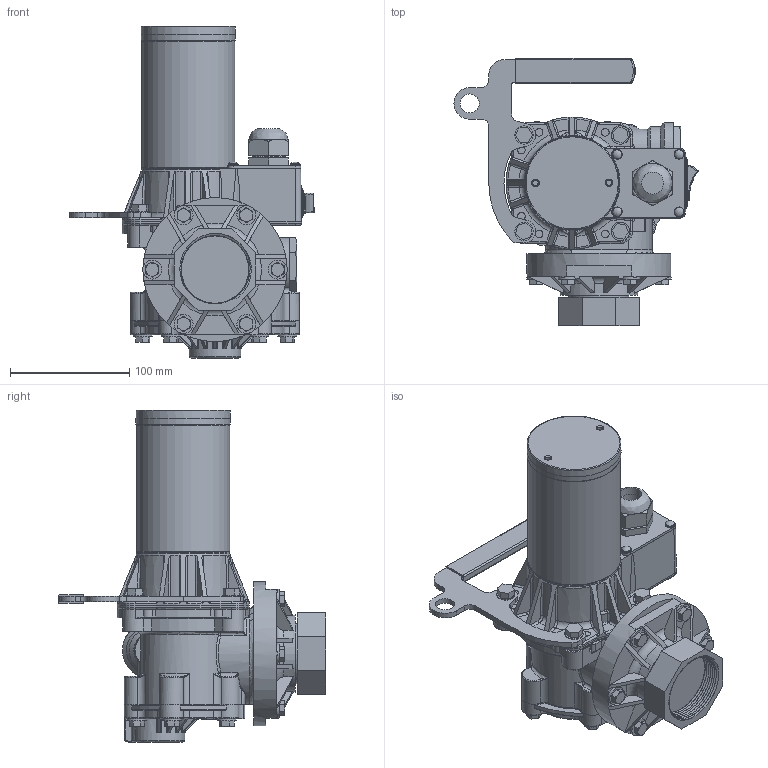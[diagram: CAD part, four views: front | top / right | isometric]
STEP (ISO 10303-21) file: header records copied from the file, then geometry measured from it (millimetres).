
FILE_DESCRIPTION(/* description */ (''),/* implementation_level */ '2;1');
FILE_NAME(/* name */ 'C:\Vault Projects\GPI Eng\New Projects\DHarris\Website model updates\STEP\P-200-2UR.stp',/* time_stamp */ '2022-07-19T14:07:50-05:00',/* author */ ('gdanhar'),/* organization */ (''),/* preprocessor_version */ 'ST-DEVELOPER v18.1',/* originating_system */ 'Autodesk Inventor 2022',/* authorisation */ '');
FILE_SCHEMA (('AUTOMOTIVE_DESIGN { 1 0 10303 214 3 1 1 }'));
Length unit declared in the file: inch
Products named in the file (1): P-200-2UR
Bounding box: 204.56 x 224.08 x 278.17 mm (x, y, z)
Volume: 2329930.5 mm3; surface area: 237145.7 mm2
Topology: 1 solids, 3 shells, 2277 faces, 5928 edges, 3776 vertices
Faces by surface type: plane 1095, cylinder 422, bspline 412, torus 265, cone 70, sphere 13
Full cylindrical faces by diameter (mm): 2.337 x1, 2.438 x1, 3.048 x1, 6.35 x6, 8.179 x4, 15.329 x2, 15.494 x2, 15.875 x6, 16.002 x7, 18.415 x2, 25.4 x1, 27.94 x1, 30.175 x3, 30.353 x1, 31.166 x3, 33.452 x4, 35.306 x1, 50.317 x1, 56.363 x1, 56.967 x8, 65.075 x1, 77.953 x1, 88.697 x1, 88.849 x1, 120.65 x1
Entity records: 92214 total; most frequent: CARTESIAN_POINT 37128, ORIENTED_EDGE 11824, DIRECTION 9741, EDGE_CURVE 5912, VERTEX_POINT 3776, AXIS2_PLACEMENT_3D 3317, LINE 3107, VECTOR 3107
